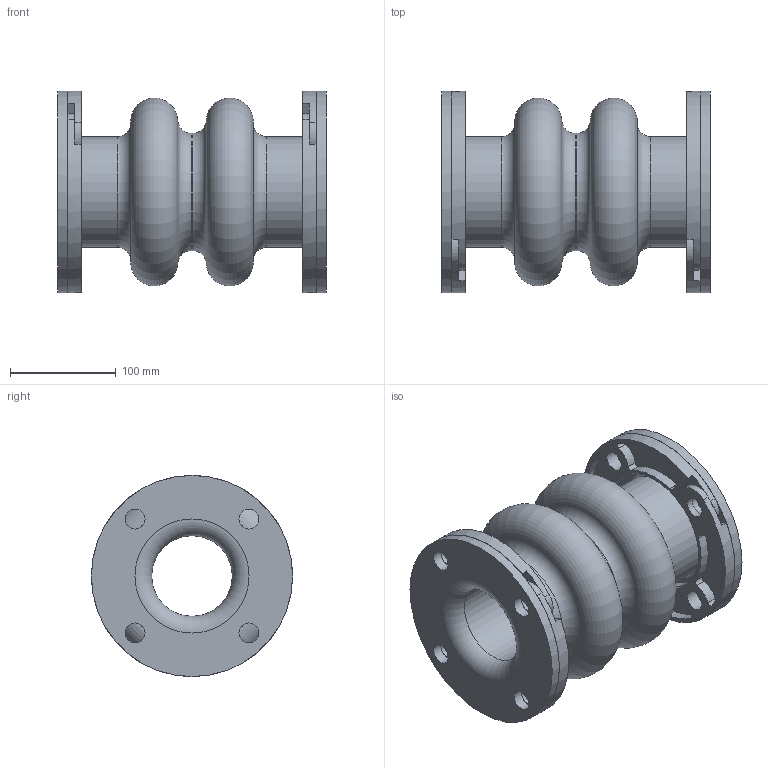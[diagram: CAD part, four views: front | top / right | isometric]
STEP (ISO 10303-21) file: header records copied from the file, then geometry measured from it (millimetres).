
FILE_DESCRIPTION(/* description */ (''),/* implementation_level */ '2;1');
FILE_NAME(/* name */ 'C:\001_Work\Designs\Mercer2014\MQInventor2014\RajR\500 Style\502\STP\502 3IDx10FF.stp',/* time_stamp */ '2016-03-16T14:09:52-04:00',/* author */ ('mquog'),/* organization */ (''),/* preprocessor_version */ 'ST-DEVELOPER v15.2',/* originating_system */ 'Autodesk Inventor 2014',/* authorisation */ '');
FILE_SCHEMA (('AUTOMOTIVE_DESIGN { 1 0 10303 214 3 1 1 }'));
Length unit declared in the file: centimetre
Products named in the file (1): 502 3IDx10FF
Bounding box: 254 x 190.5 x 190.5 mm (x, y, z)
Volume: 2408136 mm3; surface area: 457853.2 mm2
Topology: 3 solids, 3 shells, 188 faces, 488 edges, 312 vertices
Faces by surface type: cylinder 108, plane 52, torus 20, cone 8
Full cylindrical faces by diameter (mm): 19.05 x20, 76.2 x3, 104.775 x2, 111.125 x1, 190.5 x2
Entity records: 5992 total; most frequent: CARTESIAN_POINT 1101, DIRECTION 1058, ORIENTED_EDGE 872, AXIS2_PLACEMENT_3D 449, EDGE_CURVE 436, VERTEX_POINT 308, EDGE_LOOP 280, CIRCLE 260
